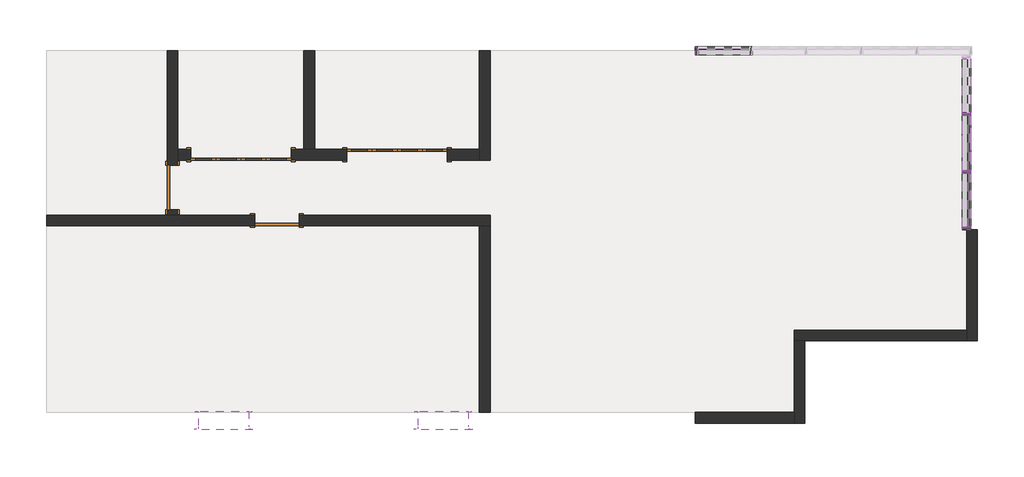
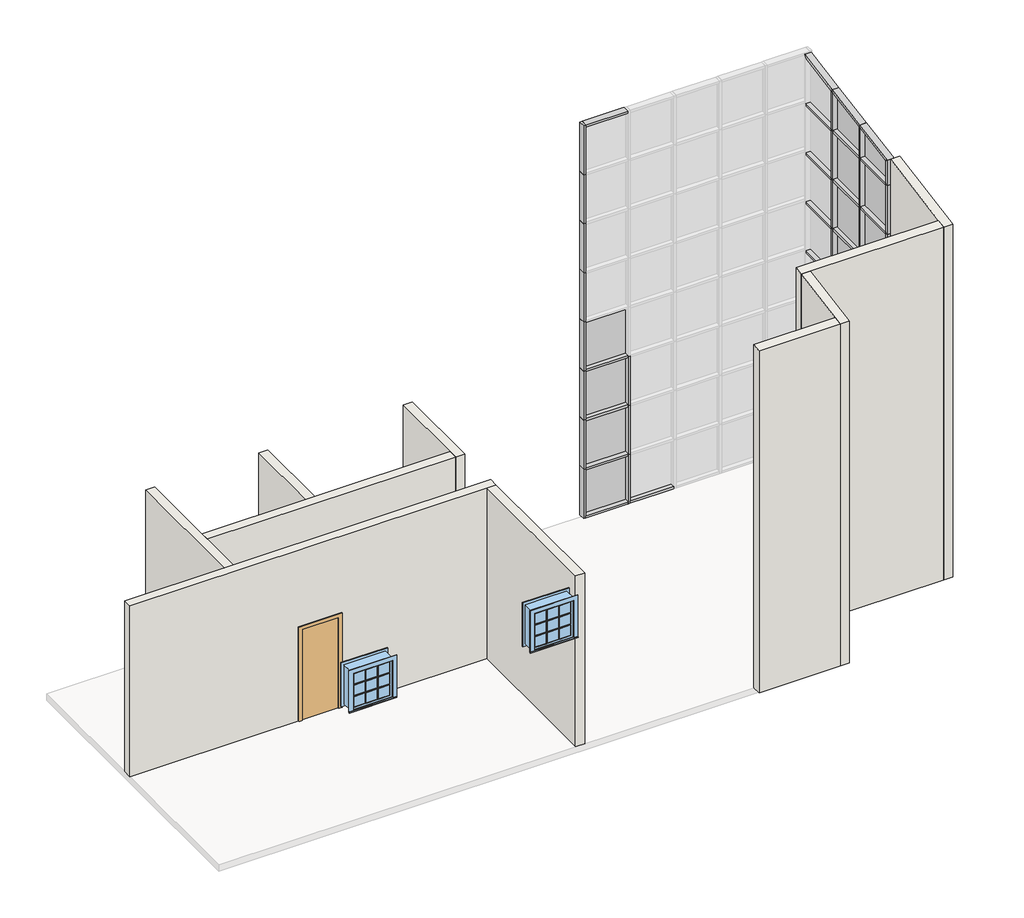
# One storey, part 1 of 2: 67 members, 20 plates, 10 walls, 4 doors, 2 windows.
"""IFC4 building model written with IfcOpenShell, lengths in millimetres."""

from ifc_helpers import new_model, si_unit, frame, origin, place, context, project, spatial, polyline, outline, extrude, faceted_brep, transform, mapped, element, save
from components import door_0813_x_2134mm_cbe18f88, door_0813_x_2134mm_c8a1819b, m_bifold_4_panel_1830_x_2134mm_2044b99a, m_bifold_4_panel_1830_x_2134mm_4b6cec86, member_50_x_150mm_5125db45, member_50_x_150mm_73edeec2, member_50_x_150mm_30901565, member_50_x_150mm_aa95aaac, member_50_x_150mm_83b75eaf, member_50_x_150mm_038a97c0, member_50_x_150mm_99484d71, member_50_x_150mm_4bc6baff, member_50_x_150mm_8b7169f3, member_50_x_150mm_d835aa78, member_50_x_150mm_4919059b, member_50_x_150mm_3cbe9fad, member_50_x_150mm_05ab2822, member_50_x_150mm_df28c177, member_50_x_150mm_b83a1f72, member_50_x_150mm_050e1f32, member_50_x_150mm_a69757b9, plate_c1ab5d1c, plate_baaea02c, plate_5f0fc48b, plate_e926f8a0, plate_09d56e0c, plate_65d05d4c, plate_68810ae1, plate_81e93dbd, m_casement_3x3_with_trim_0915_x_0915mm_2_71039012

model = new_model("IFC4")

# Units and contexts
model_context = context("Model", 3, world=origin())
ifc_project = project(units=[si_unit("LENGTHUNIT", "METRE", prefix="MILLI")], contexts=[model_context])

# Site, building, storey
site = spatial("IfcSite", under=ifc_project)
building = spatial("IfcBuilding", under=site)
storey = spatial("IfcBuildingStorey", under=building, Name="01 下方樓層", Elevation=-4000.0)

# Doors
placement = place(None, origin())
door_0813_x_2134mm_shape = door_0813_x_2134mm_cbe18f88(model_context)
element("IfcDoor", 1, ObjectType="M_單個嵌平 : 0813 x 2134mm", at=placement, inside=storey, context=model_context, shape_type="MappedRepresentation", body=[
    mapped(door_0813_x_2134mm_shape, transform((-2040.5554883, -2249.1637817, -4000.0), x_axis=(-1.0, 0.0, 0.0), y_axis=(0.0, -1.0, 0.0), z_axis=(0.0, 0.0, 1.0))),
])
door_0813_x_2134mm_2_shape = door_0813_x_2134mm_c8a1819b(model_context)
element("IfcDoor", 2, ObjectType="M_單個嵌平 : 0813 x 2134mm", at=placement, inside=storey, context=model_context, shape_type="MappedRepresentation", body=[
    mapped(door_0813_x_2134mm_2_shape, transform((-3947.0554883, -1649.1637817, -4000.0), x_axis=(0.0, -1.0, 0.0), y_axis=(1.0, 0.0, 0.0), z_axis=(0.0, 0.0, 1.0))),
])
m_bifold_4_panel_1830_x_2134mm_shape = m_bifold_4_panel_1830_x_2134mm_2044b99a(model_context)
element("IfcDoor", 3, ObjectType="M_Bifold-4 Panel : 1830 x 2134mm", at=placement, inside=storey, context=model_context, shape_type="MappedRepresentation", body=[
    mapped(m_bifold_4_panel_1830_x_2134mm_shape, transform((152.9445117, -1049.1637817, -4000.0), x_axis=(1.0, 0.0, 0.0), y_axis=(0.0, 1.0, 0.0), z_axis=(0.0, 0.0, 1.0))),
])
m_bifold_4_panel_1830_x_2134mm_2_shape = m_bifold_4_panel_1830_x_2134mm_4b6cec86(model_context)
element("IfcDoor", 4, ObjectType="M_Bifold-4 Panel : 1830 x 2134mm", at=placement, inside=storey, context=model_context, shape_type="MappedRepresentation", body=[
    mapped(m_bifold_4_panel_1830_x_2134mm_2_shape, transform((-2697.0554883, -1049.1637817, -4000.0), x_axis=(1.0, 0.0, 0.0), y_axis=(0.0, 1.0, 0.0), z_axis=(0.0, 0.0, 1.0))),
])

# Members
member_50_x_150mm_shape = member_50_x_150mm_5125db45(model_context)
element("IfcMember", 5, ObjectType="矩形豎框 : 50 x 150mm", at=placement, inside=storey, context=model_context, shape_type="MappedRepresentation", body=[
    mapped(member_50_x_150mm_shape, transform((6587.9445117, 850.8362183, 5199.0234688), x_axis=(0.0, 0.0, 1.0), y_axis=(0.0, -1.0, 0.0), z_axis=(1.0, 0.0, 0.0))),
])
element("IfcMember", 6, ObjectType="矩形豎框 : 50 x 150mm", at=placement, inside=storey, context=model_context, shape_type="MappedRepresentation", body=[
    mapped(member_50_x_150mm_shape, transform((5652.9445117, 850.8362183, -4000.0), x_axis=(0.0, 0.0, -1.0), y_axis=(0.0, -1.0, 0.0), z_axis=(-1.0, 0.0, 0.0))),
])
member_50_x_150mm_2_shape = member_50_x_150mm_73edeec2(model_context)
element("IfcMember", 7, ObjectType="矩形豎框 : 50 x 150mm", at=placement, inside=storey, context=model_context, shape_type="MappedRepresentation", body=[
    mapped(member_50_x_150mm_2_shape, transform((6637.9445117, 850.8362183, -4000.0), x_axis=(0.0, 0.0, -1.0), y_axis=(0.0, -1.0, 0.0), z_axis=(-1.0, 0.0, 0.0))),
])
member_50_x_150mm_3_shape = member_50_x_150mm_30901565(model_context)
element("IfcMember", 8, ObjectType="矩形豎框 : 50 x 150mm", at=placement, inside=storey, context=model_context, shape_type="MappedRepresentation", body=[
    mapped(member_50_x_150mm_3_shape, transform((6587.9445117, 850.8362183, -2850.1220664), x_axis=(0.0, 0.0, 1.0), y_axis=(0.0, -1.0, 0.0), z_axis=(1.0, 0.0, 0.0))),
])
element("IfcMember", 9, ObjectType="矩形豎框 : 50 x 150mm", at=placement, inside=storey, context=model_context, shape_type="MappedRepresentation", body=[
    mapped(member_50_x_150mm_3_shape, transform((6587.9445117, 850.8362183, -1700.2441328), x_axis=(0.0, 0.0, 1.0), y_axis=(0.0, -1.0, 0.0), z_axis=(1.0, 0.0, 0.0))),
])
element("IfcMember", 10, ObjectType="矩形豎框 : 50 x 150mm", at=placement, inside=storey, context=model_context, shape_type="MappedRepresentation", body=[
    mapped(member_50_x_150mm_3_shape, transform((6587.9445117, 850.8362183, -550.3661992), x_axis=(0.0, 0.0, 1.0), y_axis=(0.0, -1.0, 0.0), z_axis=(1.0, 0.0, 0.0))),
])
member_50_x_150mm_4_shape = member_50_x_150mm_aa95aaac(model_context)
element("IfcMember", 11, ObjectType="矩形豎框 : 50 x 150mm", at=placement, inside=storey, context=model_context, shape_type="MappedRepresentation", body=[
    mapped(member_50_x_150mm_4_shape, transform((6612.9445117, 850.8362183, -4000.0), x_axis=(1.0, 0.0, 0.0), y_axis=(0.0, -1.0, 0.0), z_axis=(0.0, 0.0, -1.0))),
])
element("IfcMember", 12, ObjectType="矩形豎框 : 50 x 150mm", at=placement, inside=storey, context=model_context, shape_type="MappedRepresentation", body=[
    mapped(member_50_x_150mm_4_shape, transform((6612.9445117, 850.8362183, -2850.1220664), x_axis=(1.0, 0.0, 0.0), y_axis=(0.0, -1.0, 0.0), z_axis=(0.0, 0.0, -1.0))),
])
element("IfcMember", 13, ObjectType="矩形豎框 : 50 x 150mm", at=placement, inside=storey, context=model_context, shape_type="MappedRepresentation", body=[
    mapped(member_50_x_150mm_4_shape, transform((6612.9445117, 850.8362183, -1700.2441328), x_axis=(1.0, 0.0, 0.0), y_axis=(0.0, -1.0, 0.0), z_axis=(0.0, 0.0, -1.0))),
])
member_50_x_150mm_5_shape = member_50_x_150mm_83b75eaf(model_context)
element("IfcMember", 14, ObjectType="矩形豎框 : 50 x 150mm", at=placement, inside=storey, context=model_context, shape_type="MappedRepresentation", body=[
    mapped(member_50_x_150mm_5_shape, transform((10552.9445117, -2419.1637817, 4622.4342419), x_axis=(0.0, -0.17364817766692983, 0.9848077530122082), y_axis=(-1.0, 0.0, 0.0), z_axis=(0.0, -0.9848077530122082, -0.17364817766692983))),
])
member_50_x_150mm_6_shape = member_50_x_150mm_038a97c0(model_context)
element("IfcMember", 15, ObjectType="矩形豎框 : 50 x 150mm", at=placement, inside=storey, context=model_context, shape_type="MappedRepresentation", body=[
    mapped(member_50_x_150mm_6_shape, transform((10552.9445117, -1387.4971151, -4000.0), x_axis=(0.0, 0.0, -1.0), y_axis=(-1.0, 0.0, 0.0), z_axis=(0.0, 1.0, 0.0))),
])
member_50_x_150mm_7_shape = member_50_x_150mm_99484d71(model_context)
element("IfcMember", 16, ObjectType="矩形豎框 : 50 x 150mm", at=placement, inside=storey, context=model_context, shape_type="MappedRepresentation", body=[
    mapped(member_50_x_150mm_7_shape, transform((10552.9445117, -305.8304484, 4995.0719278), x_axis=(0.0, -0.17364817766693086, 0.984807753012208), y_axis=(-1.0, 0.0, 0.0), z_axis=(0.0, -0.984807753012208, -0.17364817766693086))),
])
member_50_x_150mm_8_shape = member_50_x_150mm_4bc6baff(model_context)
element("IfcMember", 17, ObjectType="矩形豎框 : 50 x 150mm", at=placement, inside=storey, context=model_context, shape_type="MappedRepresentation", body=[
    mapped(member_50_x_150mm_8_shape, transform((10552.9445117, -1362.4971151, 4808.7530848), x_axis=(0.0, -0.17364817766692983, 0.9848077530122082), y_axis=(-1.0, 0.0, 0.0), z_axis=(0.0, -0.9848077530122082, -0.17364817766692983))),
])
member_50_x_150mm_9_shape = member_50_x_150mm_8b7169f3(model_context)
element("IfcMember", 18, ObjectType="矩形豎框 : 50 x 150mm", at=placement, inside=storey, context=model_context, shape_type="MappedRepresentation", body=[
    mapped(member_50_x_150mm_9_shape, transform((10552.9445117, -330.8304484, -4000.0), x_axis=(0.0, 0.0, -1.0), y_axis=(-1.0, 0.0, 0.0), z_axis=(0.0, 1.0, 0.0))),
])
member_50_x_150mm_10_shape = member_50_x_150mm_d835aa78(model_context)
element("IfcMember", 19, ObjectType="矩形豎框 : 50 x 150mm", at=placement, inside=storey, context=model_context, shape_type="MappedRepresentation", body=[
    mapped(member_50_x_150mm_10_shape, transform((10552.9445117, -280.8304484, -2852.3261537), x_axis=(0.0, 0.0, 1.0), y_axis=(-1.0, 0.0, 0.0), z_axis=(0.0, -1.0, 0.0))),
])
element("IfcMember", 20, ObjectType="矩形豎框 : 50 x 150mm", at=placement, inside=storey, context=model_context, shape_type="MappedRepresentation", body=[
    mapped(member_50_x_150mm_10_shape, transform((10552.9445117, -2369.1637817, -2852.3261537), x_axis=(0.0, 0.0, 1.0), y_axis=(-1.0, 0.0, 0.0), z_axis=(0.0, -1.0, 0.0))),
])
element("IfcMember", 21, ObjectType="矩形豎框 : 50 x 150mm", at=placement, inside=storey, context=model_context, shape_type="MappedRepresentation", body=[
    mapped(member_50_x_150mm_10_shape, transform((10552.9445117, -280.8304484, -1704.6523073), x_axis=(0.0, 0.0, 1.0), y_axis=(-1.0, 0.0, 0.0), z_axis=(0.0, -1.0, 0.0))),
])
element("IfcMember", 22, ObjectType="矩形豎框 : 50 x 150mm", at=placement, inside=storey, context=model_context, shape_type="MappedRepresentation", body=[
    mapped(member_50_x_150mm_10_shape, transform((10552.9445117, -2369.1637817, -1704.6523073), x_axis=(0.0, 0.0, 1.0), y_axis=(-1.0, 0.0, 0.0), z_axis=(0.0, -1.0, 0.0))),
])
element("IfcMember", 23, ObjectType="矩形豎框 : 50 x 150mm", at=placement, inside=storey, context=model_context, shape_type="MappedRepresentation", body=[
    mapped(member_50_x_150mm_10_shape, transform((10552.9445117, -280.8304484, -556.978461), x_axis=(0.0, 0.0, 1.0), y_axis=(-1.0, 0.0, 0.0), z_axis=(0.0, -1.0, 0.0))),
])
element("IfcMember", 24, ObjectType="矩形豎框 : 50 x 150mm", at=placement, inside=storey, context=model_context, shape_type="MappedRepresentation", body=[
    mapped(member_50_x_150mm_10_shape, transform((10552.9445117, -2369.1637817, -556.978461), x_axis=(0.0, 0.0, 1.0), y_axis=(-1.0, 0.0, 0.0), z_axis=(0.0, -1.0, 0.0))),
])
element("IfcMember", 25, ObjectType="矩形豎框 : 50 x 150mm", at=placement, inside=storey, context=model_context, shape_type="MappedRepresentation", body=[
    mapped(member_50_x_150mm_10_shape, transform((10552.9445117, -280.8304484, 590.6953854), x_axis=(0.0, 0.0, 1.0), y_axis=(-1.0, 0.0, 0.0), z_axis=(0.0, -1.0, 0.0))),
])
element("IfcMember", 26, ObjectType="矩形豎框 : 50 x 150mm", at=placement, inside=storey, context=model_context, shape_type="MappedRepresentation", body=[
    mapped(member_50_x_150mm_10_shape, transform((10552.9445117, -2369.1637817, 590.6953854), x_axis=(0.0, 0.0, 1.0), y_axis=(-1.0, 0.0, 0.0), z_axis=(0.0, -1.0, 0.0))),
])
element("IfcMember", 27, ObjectType="矩形豎框 : 50 x 150mm", at=placement, inside=storey, context=model_context, shape_type="MappedRepresentation", body=[
    mapped(member_50_x_150mm_10_shape, transform((10552.9445117, -280.8304484, 1738.3692317), x_axis=(0.0, 0.0, 1.0), y_axis=(-1.0, 0.0, 0.0), z_axis=(0.0, -1.0, 0.0))),
])
element("IfcMember", 28, ObjectType="矩形豎框 : 50 x 150mm", at=placement, inside=storey, context=model_context, shape_type="MappedRepresentation", body=[
    mapped(member_50_x_150mm_10_shape, transform((10552.9445117, -2369.1637817, 1738.3692317), x_axis=(0.0, 0.0, 1.0), y_axis=(-1.0, 0.0, 0.0), z_axis=(0.0, -1.0, 0.0))),
])
element("IfcMember", 29, ObjectType="矩形豎框 : 50 x 150mm", at=placement, inside=storey, context=model_context, shape_type="MappedRepresentation", body=[
    mapped(member_50_x_150mm_10_shape, transform((10552.9445117, -280.8304484, 2886.0430781), x_axis=(0.0, 0.0, 1.0), y_axis=(-1.0, 0.0, 0.0), z_axis=(0.0, -1.0, 0.0))),
])
element("IfcMember", 30, ObjectType="矩形豎框 : 50 x 150mm", at=placement, inside=storey, context=model_context, shape_type="MappedRepresentation", body=[
    mapped(member_50_x_150mm_10_shape, transform((10552.9445117, -2369.1637817, 2886.0430781), x_axis=(0.0, 0.0, 1.0), y_axis=(-1.0, 0.0, 0.0), z_axis=(0.0, -1.0, 0.0))),
])
element("IfcMember", 31, ObjectType="矩形豎框 : 50 x 150mm", at=placement, inside=storey, context=model_context, shape_type="MappedRepresentation", body=[
    mapped(member_50_x_150mm_10_shape, transform((10552.9445117, -280.8304484, 4033.7169244), x_axis=(0.0, 0.0, 1.0), y_axis=(-1.0, 0.0, 0.0), z_axis=(0.0, -1.0, 0.0))),
])
element("IfcMember", 32, ObjectType="矩形豎框 : 50 x 150mm", at=placement, inside=storey, context=model_context, shape_type="MappedRepresentation", body=[
    mapped(member_50_x_150mm_10_shape, transform((10552.9445117, -2369.1637817, 4033.7169244), x_axis=(0.0, 0.0, 1.0), y_axis=(-1.0, 0.0, 0.0), z_axis=(0.0, -1.0, 0.0))),
])
member_50_x_150mm_11_shape = member_50_x_150mm_4919059b(model_context)
element("IfcMember", 33, ObjectType="矩形豎框 : 50 x 150mm", at=placement, inside=storey, context=model_context, shape_type="MappedRepresentation", body=[
    mapped(member_50_x_150mm_11_shape, transform((10552.9445117, -1337.4971151, -2852.3261537), x_axis=(0.0, 0.0, 1.0), y_axis=(-1.0, 0.0, 0.0), z_axis=(0.0, -1.0, 0.0))),
])
element("IfcMember", 34, ObjectType="矩形豎框 : 50 x 150mm", at=placement, inside=storey, context=model_context, shape_type="MappedRepresentation", body=[
    mapped(member_50_x_150mm_11_shape, transform((10552.9445117, -1337.4971151, -1704.6523073), x_axis=(0.0, 0.0, 1.0), y_axis=(-1.0, 0.0, 0.0), z_axis=(0.0, -1.0, 0.0))),
])
element("IfcMember", 35, ObjectType="矩形豎框 : 50 x 150mm", at=placement, inside=storey, context=model_context, shape_type="MappedRepresentation", body=[
    mapped(member_50_x_150mm_11_shape, transform((10552.9445117, -1337.4971151, -556.978461), x_axis=(0.0, 0.0, 1.0), y_axis=(-1.0, 0.0, 0.0), z_axis=(0.0, -1.0, 0.0))),
])
element("IfcMember", 36, ObjectType="矩形豎框 : 50 x 150mm", at=placement, inside=storey, context=model_context, shape_type="MappedRepresentation", body=[
    mapped(member_50_x_150mm_11_shape, transform((10552.9445117, -1337.4971151, 590.6953854), x_axis=(0.0, 0.0, 1.0), y_axis=(-1.0, 0.0, 0.0), z_axis=(0.0, -1.0, 0.0))),
])
element("IfcMember", 37, ObjectType="矩形豎框 : 50 x 150mm", at=placement, inside=storey, context=model_context, shape_type="MappedRepresentation", body=[
    mapped(member_50_x_150mm_11_shape, transform((10552.9445117, -1337.4971151, 1738.3692317), x_axis=(0.0, 0.0, 1.0), y_axis=(-1.0, 0.0, 0.0), z_axis=(0.0, -1.0, 0.0))),
])
element("IfcMember", 38, ObjectType="矩形豎框 : 50 x 150mm", at=placement, inside=storey, context=model_context, shape_type="MappedRepresentation", body=[
    mapped(member_50_x_150mm_11_shape, transform((10552.9445117, -1337.4971151, 2886.0430781), x_axis=(0.0, 0.0, 1.0), y_axis=(-1.0, 0.0, 0.0), z_axis=(0.0, -1.0, 0.0))),
])
element("IfcMember", 39, ObjectType="矩形豎框 : 50 x 150mm", at=placement, inside=storey, context=model_context, shape_type="MappedRepresentation", body=[
    mapped(member_50_x_150mm_11_shape, transform((10552.9445117, -1337.4971151, 4033.7169244), x_axis=(0.0, 0.0, 1.0), y_axis=(-1.0, 0.0, 0.0), z_axis=(0.0, -1.0, 0.0))),
])
member_50_x_150mm_12_shape = member_50_x_150mm_3cbe9fad(model_context)
element("IfcMember", 40, ObjectType="矩形豎框 : 50 x 150mm", at=placement, inside=storey, context=model_context, shape_type="MappedRepresentation", body=[
    mapped(member_50_x_150mm_12_shape, transform((10552.9445117, -305.8304484, -4000.0), x_axis=(0.0, -1.0, 0.0), y_axis=(-1.0, 0.0, 0.0), z_axis=(0.0, 0.0, -1.0))),
])
element("IfcMember", 41, ObjectType="矩形豎框 : 50 x 150mm", at=placement, inside=storey, context=model_context, shape_type="MappedRepresentation", body=[
    mapped(member_50_x_150mm_12_shape, transform((10552.9445117, -1362.4971151, -4000.0), x_axis=(0.0, -1.0, 0.0), y_axis=(-1.0, 0.0, 0.0), z_axis=(0.0, 0.0, -1.0))),
])
element("IfcMember", 42, ObjectType="矩形豎框 : 50 x 150mm", at=placement, inside=storey, context=model_context, shape_type="MappedRepresentation", body=[
    mapped(member_50_x_150mm_12_shape, transform((10552.9445117, -305.8304484, -2852.3261537), x_axis=(0.0, -1.0, 0.0), y_axis=(-1.0, 0.0, 0.0), z_axis=(0.0, 0.0, -1.0))),
])
element("IfcMember", 43, ObjectType="矩形豎框 : 50 x 150mm", at=placement, inside=storey, context=model_context, shape_type="MappedRepresentation", body=[
    mapped(member_50_x_150mm_12_shape, transform((10552.9445117, -1362.4971151, -2852.3261537), x_axis=(0.0, -1.0, 0.0), y_axis=(-1.0, 0.0, 0.0), z_axis=(0.0, 0.0, -1.0))),
])
element("IfcMember", 44, ObjectType="矩形豎框 : 50 x 150mm", at=placement, inside=storey, context=model_context, shape_type="MappedRepresentation", body=[
    mapped(member_50_x_150mm_12_shape, transform((10552.9445117, -305.8304484, -1704.6523073), x_axis=(0.0, -1.0, 0.0), y_axis=(-1.0, 0.0, 0.0), z_axis=(0.0, 0.0, -1.0))),
])
element("IfcMember", 45, ObjectType="矩形豎框 : 50 x 150mm", at=placement, inside=storey, context=model_context, shape_type="MappedRepresentation", body=[
    mapped(member_50_x_150mm_12_shape, transform((10552.9445117, -1362.4971151, -1704.6523073), x_axis=(0.0, -1.0, 0.0), y_axis=(-1.0, 0.0, 0.0), z_axis=(0.0, 0.0, -1.0))),
])
element("IfcMember", 46, ObjectType="矩形豎框 : 50 x 150mm", at=placement, inside=storey, context=model_context, shape_type="MappedRepresentation", body=[
    mapped(member_50_x_150mm_12_shape, transform((10552.9445117, -305.8304484, -556.978461), x_axis=(0.0, -1.0, 0.0), y_axis=(-1.0, 0.0, 0.0), z_axis=(0.0, 0.0, -1.0))),
])
element("IfcMember", 47, ObjectType="矩形豎框 : 50 x 150mm", at=placement, inside=storey, context=model_context, shape_type="MappedRepresentation", body=[
    mapped(member_50_x_150mm_12_shape, transform((10552.9445117, -1362.4971151, -556.978461), x_axis=(0.0, -1.0, 0.0), y_axis=(-1.0, 0.0, 0.0), z_axis=(0.0, 0.0, -1.0))),
])
element("IfcMember", 48, ObjectType="矩形豎框 : 50 x 150mm", at=placement, inside=storey, context=model_context, shape_type="MappedRepresentation", body=[
    mapped(member_50_x_150mm_12_shape, transform((10552.9445117, -305.8304484, 590.6953854), x_axis=(0.0, -1.0, 0.0), y_axis=(-1.0, 0.0, 0.0), z_axis=(0.0, 0.0, -1.0))),
])
element("IfcMember", 49, ObjectType="矩形豎框 : 50 x 150mm", at=placement, inside=storey, context=model_context, shape_type="MappedRepresentation", body=[
    mapped(member_50_x_150mm_12_shape, transform((10552.9445117, -305.8304484, 1738.3692317), x_axis=(0.0, -1.0, 0.0), y_axis=(-1.0, 0.0, 0.0), z_axis=(0.0, 0.0, -1.0))),
])
element("IfcMember", 50, ObjectType="矩形豎框 : 50 x 150mm", at=placement, inside=storey, context=model_context, shape_type="MappedRepresentation", body=[
    mapped(member_50_x_150mm_12_shape, transform((10552.9445117, -305.8304484, 2886.0430781), x_axis=(0.0, -1.0, 0.0), y_axis=(-1.0, 0.0, 0.0), z_axis=(0.0, 0.0, -1.0))),
])
element("IfcMember", 51, ObjectType="矩形豎框 : 50 x 150mm", at=placement, inside=storey, context=model_context, shape_type="MappedRepresentation", body=[
    mapped(member_50_x_150mm_12_shape, transform((10552.9445117, -1362.4971151, 590.6953854), x_axis=(0.0, -1.0, 0.0), y_axis=(-1.0, 0.0, 0.0), z_axis=(0.0, 0.0, -1.0))),
])
element("IfcMember", 52, ObjectType="矩形豎框 : 50 x 150mm", at=placement, inside=storey, context=model_context, shape_type="MappedRepresentation", body=[
    mapped(member_50_x_150mm_12_shape, transform((10552.9445117, -1362.4971151, 1738.3692317), x_axis=(0.0, -1.0, 0.0), y_axis=(-1.0, 0.0, 0.0), z_axis=(0.0, 0.0, -1.0))),
])
element("IfcMember", 53, ObjectType="矩形豎框 : 50 x 150mm", at=placement, inside=storey, context=model_context, shape_type="MappedRepresentation", body=[
    mapped(member_50_x_150mm_12_shape, transform((10552.9445117, -1362.4971151, 2886.0430781), x_axis=(0.0, -1.0, 0.0), y_axis=(-1.0, 0.0, 0.0), z_axis=(0.0, 0.0, -1.0))),
])
member_50_x_150mm_13_shape = member_50_x_150mm_05ab2822(model_context)
element("IfcMember", 54, ObjectType="矩形豎框 : 50 x 150mm", at=placement, inside=storey, context=model_context, shape_type="MappedRepresentation", body=[
    mapped(member_50_x_150mm_13_shape, transform((10552.9445117, -305.8304484, 4033.7169244), x_axis=(0.0, -1.0, 0.0), y_axis=(-1.0, 0.0, 0.0), z_axis=(0.0, 0.0, -1.0))),
])
member_50_x_150mm_14_shape = member_50_x_150mm_df28c177(model_context)
element("IfcMember", 55, ObjectType="矩形豎框 : 50 x 150mm", at=placement, inside=storey, context=model_context, shape_type="MappedRepresentation", body=[
    mapped(member_50_x_150mm_14_shape, transform((10552.9445117, -1362.4971151, 4033.7169244), x_axis=(0.0, -1.0, 0.0), y_axis=(-1.0, 0.0, 0.0), z_axis=(0.0, 0.0, -1.0))),
])
member_50_x_150mm_15_shape = member_50_x_150mm_b83a1f72(model_context)
element("IfcMember", 56, ObjectType="矩形豎框 : 50 x 150mm", at=placement, inside=storey, context=model_context, shape_type="MappedRepresentation", body=[
    mapped(member_50_x_150mm_15_shape, transform((10552.9445117, -2419.1637817, -4000.0), x_axis=(0.0, -1.0, 0.0), y_axis=(-1.0, 0.0, 0.0), z_axis=(0.0, 0.0, -1.0))),
])
element("IfcMember", 57, ObjectType="矩形豎框 : 50 x 150mm", at=placement, inside=storey, context=model_context, shape_type="MappedRepresentation", body=[
    mapped(member_50_x_150mm_15_shape, transform((10552.9445117, -2419.1637817, -2852.3261537), x_axis=(0.0, -1.0, 0.0), y_axis=(-1.0, 0.0, 0.0), z_axis=(0.0, 0.0, -1.0))),
])
element("IfcMember", 58, ObjectType="矩形豎框 : 50 x 150mm", at=placement, inside=storey, context=model_context, shape_type="MappedRepresentation", body=[
    mapped(member_50_x_150mm_15_shape, transform((10552.9445117, -2419.1637817, -1704.6523073), x_axis=(0.0, -1.0, 0.0), y_axis=(-1.0, 0.0, 0.0), z_axis=(0.0, 0.0, -1.0))),
])
element("IfcMember", 59, ObjectType="矩形豎框 : 50 x 150mm", at=placement, inside=storey, context=model_context, shape_type="MappedRepresentation", body=[
    mapped(member_50_x_150mm_15_shape, transform((10552.9445117, -2419.1637817, -556.978461), x_axis=(0.0, -1.0, 0.0), y_axis=(-1.0, 0.0, 0.0), z_axis=(0.0, 0.0, -1.0))),
])
element("IfcMember", 60, ObjectType="矩形豎框 : 50 x 150mm", at=placement, inside=storey, context=model_context, shape_type="MappedRepresentation", body=[
    mapped(member_50_x_150mm_15_shape, transform((10552.9445117, -2419.1637817, 590.6953854), x_axis=(0.0, -1.0, 0.0), y_axis=(-1.0, 0.0, 0.0), z_axis=(0.0, 0.0, -1.0))),
])
element("IfcMember", 61, ObjectType="矩形豎框 : 50 x 150mm", at=placement, inside=storey, context=model_context, shape_type="MappedRepresentation", body=[
    mapped(member_50_x_150mm_15_shape, transform((10552.9445117, -2419.1637817, 1738.3692317), x_axis=(0.0, -1.0, 0.0), y_axis=(-1.0, 0.0, 0.0), z_axis=(0.0, 0.0, -1.0))),
])
element("IfcMember", 62, ObjectType="矩形豎框 : 50 x 150mm", at=placement, inside=storey, context=model_context, shape_type="MappedRepresentation", body=[
    mapped(member_50_x_150mm_15_shape, transform((10552.9445117, -2419.1637817, 2886.0430781), x_axis=(0.0, -1.0, 0.0), y_axis=(-1.0, 0.0, 0.0), z_axis=(0.0, 0.0, -1.0))),
])
member_50_x_150mm_16_shape = member_50_x_150mm_050e1f32(model_context)
element("IfcMember", 63, ObjectType="矩形豎框 : 50 x 150mm", at=placement, inside=storey, context=model_context, shape_type="MappedRepresentation", body=[
    mapped(member_50_x_150mm_16_shape, transform((5602.9445117, 850.8362183, 5199.0234688), x_axis=(-1.0, 0.0, 0.0), y_axis=(0.0, -1.0, 0.0), z_axis=(0.0, 0.0, 1.0))),
])
element("IfcMember", 64, ObjectType="矩形豎框 : 50 x 150mm", at=placement, inside=storey, context=model_context, shape_type="MappedRepresentation", body=[
    mapped(member_50_x_150mm_16_shape, transform((5602.9445117, 850.8362183, -2850.1220664), x_axis=(-1.0, 0.0, 0.0), y_axis=(0.0, -1.0, 0.0), z_axis=(0.0, 0.0, 1.0))),
])
element("IfcMember", 65, ObjectType="矩形豎框 : 50 x 150mm", at=placement, inside=storey, context=model_context, shape_type="MappedRepresentation", body=[
    mapped(member_50_x_150mm_16_shape, transform((5602.9445117, 850.8362183, -1700.2441328), x_axis=(-1.0, 0.0, 0.0), y_axis=(0.0, -1.0, 0.0), z_axis=(0.0, 0.0, 1.0))),
])
element("IfcMember", 66, ObjectType="矩形豎框 : 50 x 150mm", at=placement, inside=storey, context=model_context, shape_type="MappedRepresentation", body=[
    mapped(member_50_x_150mm_16_shape, transform((5602.9445117, 850.8362183, -550.3661992), x_axis=(-1.0, 0.0, 0.0), y_axis=(0.0, -1.0, 0.0), z_axis=(0.0, 0.0, 1.0))),
])
element("IfcMember", 67, ObjectType="矩形豎框 : 50 x 150mm", at=placement, inside=storey, context=model_context, shape_type="MappedRepresentation", body=[
    mapped(member_50_x_150mm_16_shape, transform((5602.9445117, 850.8362183, 599.5117344), x_axis=(-1.0, 0.0, 0.0), y_axis=(0.0, -1.0, 0.0), z_axis=(0.0, 0.0, 1.0))),
])
element("IfcMember", 68, ObjectType="矩形豎框 : 50 x 150mm", at=placement, inside=storey, context=model_context, shape_type="MappedRepresentation", body=[
    mapped(member_50_x_150mm_16_shape, transform((5602.9445117, 850.8362183, 1749.389668), x_axis=(-1.0, 0.0, 0.0), y_axis=(0.0, -1.0, 0.0), z_axis=(0.0, 0.0, 1.0))),
])
element("IfcMember", 69, ObjectType="矩形豎框 : 50 x 150mm", at=placement, inside=storey, context=model_context, shape_type="MappedRepresentation", body=[
    mapped(member_50_x_150mm_16_shape, transform((5602.9445117, 850.8362183, 2899.2676016), x_axis=(-1.0, 0.0, 0.0), y_axis=(0.0, -1.0, 0.0), z_axis=(0.0, 0.0, 1.0))),
])
element("IfcMember", 70, ObjectType="矩形豎框 : 50 x 150mm", at=placement, inside=storey, context=model_context, shape_type="MappedRepresentation", body=[
    mapped(member_50_x_150mm_16_shape, transform((5602.9445117, 850.8362183, 4049.1455352), x_axis=(-1.0, 0.0, 0.0), y_axis=(0.0, -1.0, 0.0), z_axis=(0.0, 0.0, 1.0))),
])
member_50_x_150mm_17_shape = member_50_x_150mm_a69757b9(model_context)
element("IfcMember", 71, ObjectType="矩形豎框 : 50 x 150mm", at=placement, inside=storey, context=model_context, shape_type="MappedRepresentation", body=[
    mapped(member_50_x_150mm_17_shape, transform((10552.9445117, -2419.1637817, 4033.7169244), x_axis=(0.0, -1.0, 0.0), y_axis=(-1.0, 0.0, 0.0), z_axis=(0.0, 0.0, -1.0))),
])

# Plates
plate_shape = plate_c1ab5d1c(model_context)
element("IfcPlate", 72, ObjectType="系統嵌板 : 有玻璃的", at=placement, inside=storey, context=model_context, shape_type="MappedRepresentation", body=[
    mapped(plate_shape, transform((10552.9445117, -1878.3304484, -3950.0), x_axis=(0.0, -1.0, 0.0), y_axis=(1.0, 0.0, 0.0), z_axis=(0.0, 0.0, 1.0))),
])
plate_2_shape = plate_baaea02c(model_context)
element("IfcPlate", 73, ObjectType="系統嵌板 : 有玻璃的", at=placement, inside=storey, context=model_context, shape_type="MappedRepresentation", body=[
    mapped(plate_2_shape, transform((10552.9445117, -834.1637817, -3950.0), x_axis=(0.0, -1.0, 0.0), y_axis=(1.0, 0.0, 0.0), z_axis=(0.0, 0.0, 1.0))),
])
plate_3_shape = plate_5f0fc48b(model_context)
element("IfcPlate", 74, ObjectType="系統嵌板 : 有玻璃的", at=placement, inside=storey, context=model_context, shape_type="MappedRepresentation", body=[
    mapped(plate_3_shape, transform((10552.9445117, -1878.3304484, -2827.3261537), x_axis=(0.0, -1.0, 0.0), y_axis=(1.0, 0.0, 0.0), z_axis=(0.0, 0.0, 1.0))),
])
element("IfcPlate", 75, ObjectType="系統嵌板 : 有玻璃的", at=placement, inside=storey, context=model_context, shape_type="MappedRepresentation", body=[
    mapped(plate_3_shape, transform((10552.9445117, -1878.3304484, -1679.6523073), x_axis=(0.0, -1.0, 0.0), y_axis=(1.0, 0.0, 0.0), z_axis=(0.0, 0.0, 1.0))),
])
element("IfcPlate", 76, ObjectType="系統嵌板 : 有玻璃的", at=placement, inside=storey, context=model_context, shape_type="MappedRepresentation", body=[
    mapped(plate_3_shape, transform((10552.9445117, -1878.3304484, -531.978461), x_axis=(0.0, -1.0, 0.0), y_axis=(1.0, 0.0, 0.0), z_axis=(0.0, 0.0, 1.0))),
])
element("IfcPlate", 77, ObjectType="系統嵌板 : 有玻璃的", at=placement, inside=storey, context=model_context, shape_type="MappedRepresentation", body=[
    mapped(plate_3_shape, transform((10552.9445117, -1878.3304484, 615.6953854), x_axis=(0.0, -1.0, 0.0), y_axis=(1.0, 0.0, 0.0), z_axis=(0.0, 0.0, 1.0))),
])
element("IfcPlate", 78, ObjectType="系統嵌板 : 有玻璃的", at=placement, inside=storey, context=model_context, shape_type="MappedRepresentation", body=[
    mapped(plate_3_shape, transform((10552.9445117, -1878.3304484, 1763.3692317), x_axis=(0.0, -1.0, 0.0), y_axis=(1.0, 0.0, 0.0), z_axis=(0.0, 0.0, 1.0))),
])
element("IfcPlate", 79, ObjectType="系統嵌板 : 有玻璃的", at=placement, inside=storey, context=model_context, shape_type="MappedRepresentation", body=[
    mapped(plate_3_shape, transform((10552.9445117, -1878.3304484, 2911.0430781), x_axis=(0.0, -1.0, 0.0), y_axis=(1.0, 0.0, 0.0), z_axis=(0.0, 0.0, 1.0))),
])
plate_4_shape = plate_e926f8a0(model_context)
element("IfcPlate", 80, ObjectType="系統嵌板 : 有玻璃的", at=placement, inside=storey, context=model_context, shape_type="MappedRepresentation", body=[
    mapped(plate_4_shape, transform((10552.9445117, -834.1637817, -2827.3261537), x_axis=(0.0, -1.0, 0.0), y_axis=(1.0, 0.0, 0.0), z_axis=(0.0, 0.0, 1.0))),
])
element("IfcPlate", 81, ObjectType="系統嵌板 : 有玻璃的", at=placement, inside=storey, context=model_context, shape_type="MappedRepresentation", body=[
    mapped(plate_4_shape, transform((10552.9445117, -834.1637817, -1679.6523073), x_axis=(0.0, -1.0, 0.0), y_axis=(1.0, 0.0, 0.0), z_axis=(0.0, 0.0, 1.0))),
])
element("IfcPlate", 82, ObjectType="系統嵌板 : 有玻璃的", at=placement, inside=storey, context=model_context, shape_type="MappedRepresentation", body=[
    mapped(plate_4_shape, transform((10552.9445117, -834.1637817, -531.978461), x_axis=(0.0, -1.0, 0.0), y_axis=(1.0, 0.0, 0.0), z_axis=(0.0, 0.0, 1.0))),
])
element("IfcPlate", 83, ObjectType="系統嵌板 : 有玻璃的", at=placement, inside=storey, context=model_context, shape_type="MappedRepresentation", body=[
    mapped(plate_4_shape, transform((10552.9445117, -834.1637817, 615.6953854), x_axis=(0.0, -1.0, 0.0), y_axis=(1.0, 0.0, 0.0), z_axis=(0.0, 0.0, 1.0))),
])
element("IfcPlate", 84, ObjectType="系統嵌板 : 有玻璃的", at=placement, inside=storey, context=model_context, shape_type="MappedRepresentation", body=[
    mapped(plate_4_shape, transform((10552.9445117, -834.1637817, 1763.3692317), x_axis=(0.0, -1.0, 0.0), y_axis=(1.0, 0.0, 0.0), z_axis=(0.0, 0.0, 1.0))),
])
element("IfcPlate", 85, ObjectType="系統嵌板 : 有玻璃的", at=placement, inside=storey, context=model_context, shape_type="MappedRepresentation", body=[
    mapped(plate_4_shape, transform((10552.9445117, -834.1637817, 2911.0430781), x_axis=(0.0, -1.0, 0.0), y_axis=(1.0, 0.0, 0.0), z_axis=(0.0, 0.0, 1.0))),
])
plate_5_shape = plate_09d56e0c(model_context)
element("IfcPlate", 86, ObjectType="系統嵌板 : 有玻璃的", at=placement, inside=storey, context=model_context, shape_type="MappedRepresentation", body=[
    mapped(plate_5_shape, transform((6120.4445117, 850.8362183, -3950.0), x_axis=(1.0, 0.0, 0.0), y_axis=(0.0, 1.0, 0.0), z_axis=(0.0, 0.0, 1.0))),
])
plate_6_shape = plate_65d05d4c(model_context)
element("IfcPlate", 87, ObjectType="系統嵌板 : 有玻璃的", at=placement, inside=storey, context=model_context, shape_type="MappedRepresentation", body=[
    mapped(plate_6_shape, transform((6120.4445117, 850.8362183, -2825.1220664), x_axis=(1.0, 0.0, 0.0), y_axis=(0.0, 1.0, 0.0), z_axis=(0.0, 0.0, 1.0))),
])
element("IfcPlate", 88, ObjectType="系統嵌板 : 有玻璃的", at=placement, inside=storey, context=model_context, shape_type="MappedRepresentation", body=[
    mapped(plate_6_shape, transform((6120.4445117, 850.8362183, -1675.2441328), x_axis=(1.0, 0.0, 0.0), y_axis=(0.0, 1.0, 0.0), z_axis=(0.0, 0.0, 1.0))),
])
element("IfcPlate", 89, ObjectType="系統嵌板 : 有玻璃的", at=placement, inside=storey, context=model_context, shape_type="MappedRepresentation", body=[
    mapped(plate_6_shape, transform((6120.4445117, 850.8362183, -525.3661992), x_axis=(1.0, 0.0, 0.0), y_axis=(0.0, 1.0, 0.0), z_axis=(0.0, 0.0, 1.0))),
])
plate_7_shape = plate_68810ae1(model_context)
element("IfcPlate", 90, ObjectType="系統嵌板 : 有玻璃的", at=placement, inside=storey, context=model_context, shape_type="MappedRepresentation", body=[
    mapped(plate_7_shape, transform((10552.9445117, -834.1637817, 4058.7169244), x_axis=(0.0, -1.0, 0.0), y_axis=(1.0, 0.0, 0.0), z_axis=(0.0, 0.0, 1.0))),
])
plate_8_shape = plate_81e93dbd(model_context)
element("IfcPlate", 91, ObjectType="系統嵌板 : 有玻璃的", at=placement, inside=storey, context=model_context, shape_type="MappedRepresentation", body=[
    mapped(plate_8_shape, transform((10552.9445117, -1878.3304484, 4058.7169244), x_axis=(0.0, -1.0, 0.0), y_axis=(1.0, 0.0, 0.0), z_axis=(0.0, 0.0, 1.0))),
])

# Walls
element("IfcWall", 92, ObjectType="牆 200mm", at=placement, inside=storey, context=model_context, shape_type="Brep", body=[
    faceted_brep([(10552.9445117, -4249.1637817, -4000.0), (7402.9445117, -4249.1637817, -4000.0), (7402.9445117, -4249.1637817, 4299.7558672), (10552.9445117, -4249.1637817, 4299.7558672), (10552.9445117, -4449.1637817, -4000.0), (10552.9445117, -4449.1637817, 4264.4904711), (7602.9445117, -4449.1637817, 4264.4904711), (7402.9445117, -4449.1637817, 4264.4904711), (7402.9445117, -4449.1637817, -4000.0), (7602.9445117, -4449.1637817, -4000.0)], [[[0, 1, 2, 3]], [[4, 5, 6, 7, 8, 9]], [[1, 0, 4, 9, 8]], [[2, 1, 8, 7]], [[0, 3, 5, 4]], [[3, 2, 7, 6, 5]]]),
])
element("IfcWall", 93, ObjectType="牆 200mm", at=placement, inside=storey, context=model_context, shape_type="Brep", body=[
    faceted_brep([(7402.9445117, -4449.1637817, -4000.0), (7402.9445117, -5749.1637817, -4000.0), (7402.9445117, -5949.1637817, -4000.0), (7402.9445117, -5949.1637817, 4000.0), (7402.9445117, -5749.1637817, 4035.2653961), (7402.9445117, -4449.1637817, 4264.4904711), (7402.9445117, -4641.6637817, 0.0), (7402.9445117, -4641.6637817, 2134.0), (7402.9445117, -5556.6637817, 2134.0), (7402.9445117, -5556.6637817, 0.0), (7602.9445117, -4449.1637817, -4000.0), (7602.9445117, -4449.1637817, 4264.4904711), (7602.9445117, -5949.1637817, 4000.0), (7602.9445117, -5949.1637817, -4000.0), (7602.9445117, -4641.6637817, 0.0), (7602.9445117, -5556.6637817, 0.0), (7602.9445117, -5556.6637817, 2134.0), (7602.9445117, -4641.6637817, 2134.0)], [[[0, 1, 2, 3, 4, 5], [6, 7, 8, 9]], [[10, 11, 12, 13], [14, 15, 16, 17]], [[2, 1, 0, 10, 13]], [[3, 2, 13, 12]], [[0, 5, 11, 10]], [[5, 4, 3, 12, 11]], [[15, 14, 6, 9]], [[16, 15, 9, 8]], [[17, 16, 8, 7]], [[14, 17, 7, 6]]]),
])
element("IfcWall", 94, ObjectType="牆 200mm", at=placement, inside=storey, context=model_context, shape_type="Brep", body=[
    faceted_brep([(7402.9445117, -5749.1637817, -4000.0), (5602.9445117, -5749.1637817, -4000.0), (5602.9445117, -5749.1637817, 0.0), (5602.9445117, -5749.1637817, 4035.2653961), (7402.9445117, -5749.1637817, 4035.2653961), (7402.9445117, -5949.1637817, -4000.0), (7402.9445117, -5949.1637817, 4000.0), (5602.9445117, -5949.1637817, 4000.0), (5602.9445117, -5949.1637817, 0.0), (5602.9445117, -5949.1637817, -4000.0)], [[[0, 1, 2, 3, 4]], [[5, 6, 7, 8, 9]], [[1, 0, 5, 9]], [[0, 4, 6, 5]], [[1, 9, 8, 7, 3, 2]], [[4, 3, 7, 6]]]),
])
element("IfcWall", 95, ObjectType="牆 200mm", at=placement, inside=storey, context=model_context, shape_type="Brep", body=[
    faceted_brep([(1652.9445117, 850.8362183, -4000.0), (1652.9445117, -949.1637817, -4000.0), (1652.9445117, -1149.1637817, -4000.0), (1652.9445117, -1149.1637817, 0.0), (1652.9445117, -949.1637817, 0.0), (1652.9445117, 850.8362183, 0.0), (1852.9445117, 850.8362183, -4000.0), (1852.9445117, 850.8362183, 0.0), (1852.9445117, -1149.1637817, 0.0), (1852.9445117, -1149.1637817, -4000.0)], [[[0, 1, 2, 3, 4, 5]], [[6, 7, 8, 9]], [[2, 1, 0, 6, 9]], [[5, 4, 3, 8, 7]], [[3, 2, 9, 8]], [[0, 5, 7, 6]]]),
])
element("IfcWall", 96, ObjectType="牆 200mm", at=placement, inside=storey, context=model_context, shape_type="Brep", body=[
    faceted_brep([(-6247.0554883, -2349.1637817, -4000.0), (-2447.0554883, -2349.1637817, -4000.0), (-2447.0554883, -2349.1637817, -1866.0), (-1634.0554883, -2349.1637817, -1866.0), (-1634.0554883, -2349.1637817, -4000.0), (1652.9445117, -2349.1637817, -4000.0), (1852.9445117, -2349.1637817, -4000.0), (1852.9445117, -2349.1637817, 0.0), (1652.9445117, -2349.1637817, 0.0), (-6247.0554883, -2349.1637817, 0.0), (-2447.0554883, -2149.1637817, -1866.0), (-2447.0554883, -2149.1637817, -4000.0), (-3847.0554883, -2149.1637817, -4000.0), (-4047.0554883, -2149.1637817, -4000.0), (-6247.0554883, -2149.1637817, -4000.0), (-6247.0554883, -2149.1637817, 0.0), (-4047.0554883, -2149.1637817, 0.0), (-3847.0554883, -2149.1637817, 0.0), (1852.9445117, -2149.1637817, 0.0), (1852.9445117, -2149.1637817, -4000.0), (-1634.0554883, -2149.1637817, -4000.0), (-1634.0554883, -2149.1637817, -1866.0)], [[[0, 1, 2, 3, 4, 5, 6, 7, 8, 9]], [[10, 11, 12, 13, 14, 15, 16, 17, 18, 19, 20, 21]], [[14, 13, 12, 11, 1, 0]], [[20, 19, 6, 5, 4]], [[9, 8, 7, 18, 17, 16, 15]], [[7, 6, 19, 18]], [[0, 9, 15, 14]], [[2, 1, 11, 10]], [[3, 2, 10, 21]], [[4, 3, 21, 20]]]),
])
element("IfcWall", 97, ObjectType="牆 200mm", at=placement, inside=storey, context=model_context, shape_type="Brep", body=[
    faceted_brep([(-4047.0554883, -2055.6637817, -1866.0), (-4047.0554883, -2055.6637817, -4000.0), (-4047.0554883, -2149.1637817, -4000.0), (-4047.0554883, -2149.1637817, 0.0), (-4047.0554883, 850.8362183, 0.0), (-4047.0554883, 850.8362183, -4000.0), (-4047.0554883, -1242.6637817, -4000.0), (-4047.0554883, -1242.6637817, -1866.0), (-3847.0554883, -2149.1637817, -4000.0), (-3847.0554883, -2055.6637817, -4000.0), (-3847.0554883, -2055.6637817, -1866.0), (-3847.0554883, -1242.6637817, -1866.0), (-3847.0554883, -1242.6637817, -4000.0), (-3847.0554883, -1149.1637817, -4000.0), (-3847.0554883, -949.1637817, -4000.0), (-3847.0554883, 850.8362183, -4000.0), (-3847.0554883, 850.8362183, 0.0), (-3847.0554883, -949.1637817, 0.0), (-3847.0554883, -1149.1637817, 0.0), (-3847.0554883, -2149.1637817, 0.0)], [[[0, 1, 2, 3, 4, 5, 6, 7]], [[8, 9, 10, 11, 12, 13, 14, 15, 16, 17, 18, 19]], [[2, 1, 9, 8]], [[6, 5, 15, 14, 13, 12]], [[4, 3, 19, 18, 17, 16]], [[3, 2, 8, 19]], [[5, 4, 16, 15]], [[10, 9, 1, 0]], [[11, 10, 0, 7]], [[12, 11, 7, 6]]]),
])
element("IfcWall", 98, ObjectType="牆 200mm", at=placement, inside=storey, context=model_context, shape_type="Brep", body=[
    faceted_brep([(1067.9445117, -1149.1637817, -1866.0), (1067.9445117, -1149.1637817, -4000.0), (1652.9445117, -1149.1637817, -4000.0), (1652.9445117, -1149.1637817, 0.0), (-3847.0554883, -1149.1637817, 0.0), (-3847.0554883, -1149.1637817, -4000.0), (-3612.0554883, -1149.1637817, -4000.0), (-3612.0554883, -1149.1637817, -1866.0), (-1782.0554883, -1149.1637817, -1866.0), (-1782.0554883, -1149.1637817, -4000.0), (-762.0554883, -1149.1637817, -4000.0), (-762.0554883, -1149.1637817, -1866.0), (1652.9445117, -949.1637817, -4000.0), (1067.9445117, -949.1637817, -4000.0), (1067.9445117, -949.1637817, -1866.0), (-762.0554883, -949.1637817, -1866.0), (-762.0554883, -949.1637817, -4000.0), (-1347.0554883, -949.1637817, -4000.0), (-1547.0554883, -949.1637817, -4000.0), (-1782.0554883, -949.1637817, -4000.0), (-1782.0554883, -949.1637817, -1866.0), (-3612.0554883, -949.1637817, -1866.0), (-3612.0554883, -949.1637817, -4000.0), (-3847.0554883, -949.1637817, -4000.0), (-3847.0554883, -949.1637817, 0.0), (-1547.0554883, -949.1637817, 0.0), (-1347.0554883, -949.1637817, 0.0), (1652.9445117, -949.1637817, 0.0)], [[[0, 1, 2, 3, 4, 5, 6, 7, 8, 9, 10, 11]], [[12, 13, 14, 15, 16, 17, 18, 19, 20, 21, 22, 23, 24, 25, 26, 27]], [[2, 1, 13, 12]], [[6, 5, 23, 22]], [[10, 9, 19, 18, 17, 16]], [[4, 3, 27, 26, 25, 24]], [[5, 4, 24, 23]], [[3, 2, 12, 27]], [[20, 19, 9, 8]], [[21, 20, 8, 7]], [[22, 21, 7, 6]], [[14, 13, 1, 0]], [[15, 14, 0, 11]], [[16, 15, 11, 10]]]),
])
element("IfcWall", 99, ObjectType="牆 200mm", at=placement, inside=storey, context=model_context, shape_type="SweptSolid", body=[
    extrude(outline(polyline([(-1547.0554883, -949.1637817), (-1547.0554883, 850.8362183), (-1347.0554883, 850.8362183), (-1347.0554883, -949.1637817), (-1547.0554883, -949.1637817)])), frame((0.0, 0.0, -4000.0), z_axis=(0.0, 0.0, 1.0), x_axis=(1.0, 0.0, 0.0)), (0.0, 0.0, 1.0), 4000.0),
])
element("IfcWall", 100, ObjectType="牆 200mm", at=placement, inside=storey, context=model_context, shape_type="SweptSolid", body=[
    extrude(outline(polyline([(1652.9445117, -5749.1637817), (1652.9445117, -2349.1637817), (1852.9445117, -2349.1637817), (1852.9445117, -5749.1637817), (1652.9445117, -5749.1637817)])), frame((0.0, 0.0, -4000.0), z_axis=(0.0, 0.0, 1.0), x_axis=(1.0, 0.0, 0.0)), (0.0, 0.0, 1.0), 4000.0),
])
element("IfcWall", 101, ObjectType="牆 200mm", at=placement, inside=storey, context=model_context, shape_type="Brep", body=[
    faceted_brep([(10552.9445117, -2419.1637817, -4000.0), (10552.9445117, -4249.1637817, -4000.0), (10552.9445117, -4449.1637817, -4000.0), (10552.9445117, -4449.1637817, 4264.4904711), (10552.9445117, -4249.1637817, 4299.7558672), (10552.9445117, -2419.1637817, 4622.4342419), (10752.9445117, -2419.1637817, -4000.0), (10752.9445117, -2419.1637817, 4622.4342419), (10752.9445117, -4449.1637817, 4264.4904711), (10752.9445117, -4449.1637817, -4000.0)], [[[0, 1, 2, 3, 4, 5]], [[6, 7, 8, 9]], [[2, 1, 0, 6, 9]], [[0, 5, 7, 6]], [[3, 2, 9, 8]], [[5, 4, 3, 8, 7]]]),
])

# Windows
m_casement_3x3_with_trim_0915_x_0915mm_2_shape = m_casement_3x3_with_trim_0915_x_0915mm_2_71039012(model_context)
element("IfcWindow", 102, ObjectType="M_Casement 3x3 with Trim : 0915 x 0915mm 2", at=placement, inside=storey, context=model_context, shape_type="MappedRepresentation", body=[
    mapped(m_casement_3x3_with_trim_0915_x_0915mm_2_shape, transform((-3014.5554883, -5899.1637817, -2115.0), x_axis=(-1.0, 0.0, 0.0), y_axis=(0.0, -1.0, 0.0), z_axis=(0.0, 0.0, 1.0))),
])
element("IfcWindow", 103, ObjectType="M_Casement 3x3 with Trim : 0915 x 0915mm 2", at=placement, inside=storey, context=model_context, shape_type="MappedRepresentation", body=[
    mapped(m_casement_3x3_with_trim_0915_x_0915mm_2_shape, transform((995.4445117, -5899.1637817, -2115.0), x_axis=(-1.0, 0.0, 0.0), y_axis=(0.0, -1.0, 0.0), z_axis=(0.0, 0.0, 1.0))),
])

save(model, "model.ifc")
